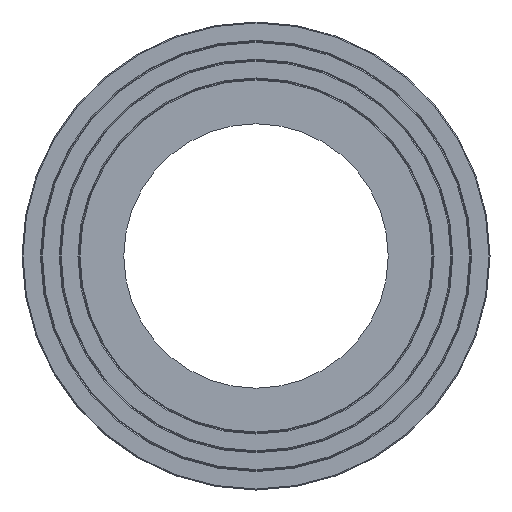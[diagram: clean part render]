
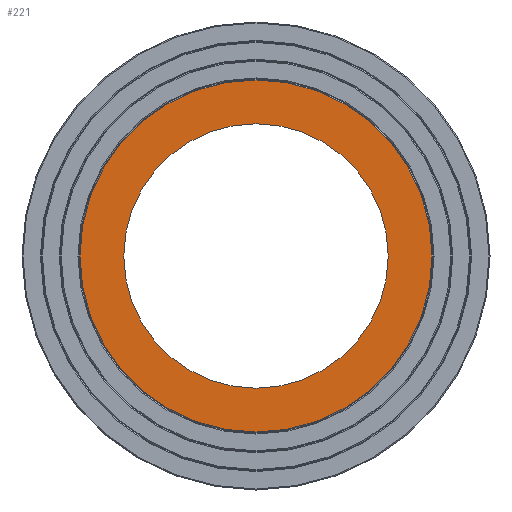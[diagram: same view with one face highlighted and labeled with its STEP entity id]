
A CAD part, left-side view. The second image highlights one B-rep face of the part: STEP entity #221.
In plain terms, the highlighted planar face has unit normal (-1, 0, 0).
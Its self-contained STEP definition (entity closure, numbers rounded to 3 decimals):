
#36=ORIENTED_EDGE('',*,*,#76,.F.);
#37=ORIENTED_EDGE('',*,*,#77,.T.);
#76=EDGE_CURVE('',#96,#96,#116,.T.);
#77=EDGE_CURVE('',#97,#97,#117,.T.);
#96=VERTEX_POINT('',#383);
#97=VERTEX_POINT('',#385);
#116=CIRCLE('',#257,204.3);
#117=CIRCLE('',#258,272.);
#136=EDGE_LOOP('',(#36));
#137=EDGE_LOOP('',(#37));
#176=FACE_BOUND('',#136,.T.);
#177=FACE_BOUND('',#137,.T.);
#215=PLANE('',#256);
#221=ADVANCED_FACE('',(#176,#177),#215,.F.);
#256=AXIS2_PLACEMENT_3D('',#381,#301,#302);
#257=AXIS2_PLACEMENT_3D('',#382,#303,#304);
#258=AXIS2_PLACEMENT_3D('',#384,#305,#306);
#301=DIRECTION('',(1.,0.,0.));
#302=DIRECTION('',(0.,0.,-1.));
#303=DIRECTION('',(-1.,0.,0.));
#304=DIRECTION('',(0.,0.,1.));
#305=DIRECTION('',(-1.,0.,0.));
#306=DIRECTION('',(0.,0.,1.));
#381=CARTESIAN_POINT('',(0.,0.,361.5));
#382=CARTESIAN_POINT('',(0.,0.,0.));
#383=CARTESIAN_POINT('',(0.,0.,204.3));
#384=CARTESIAN_POINT('',(0.,0.,0.));
#385=CARTESIAN_POINT('',(0.,0.,272.));
